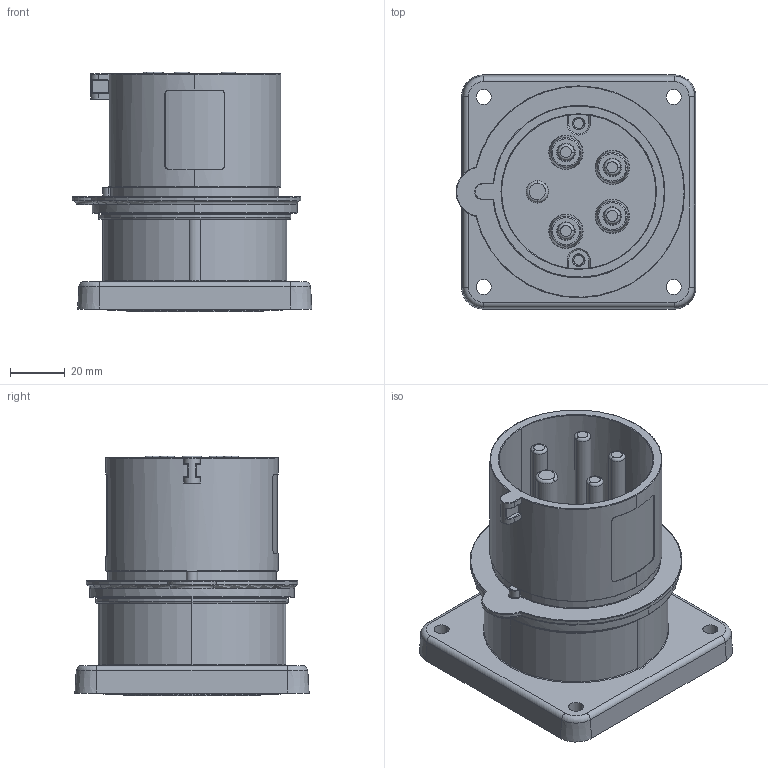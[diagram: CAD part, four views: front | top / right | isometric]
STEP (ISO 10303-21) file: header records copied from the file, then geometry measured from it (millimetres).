
FILE_DESCRIPTION (( 'STEP AP203' ), '1' );
FILE_NAME ('DIS2433297 (PSP 5p 32ﾀ 400ﾂ IP44).STEP', '2024-09-17T05:25:34', ( '' ), ( '' ), 'SwSTEP 2.0', 'SolidWorks 2022', '' );
FILE_SCHEMA (( 'CONFIG_CONTROL_DESIGN' ));
Length unit declared in the file: millimetre
Products named in the file (1): DIS2433297 (PSP 5p 32А 400В IP44)
Bounding box: 87.7 x 85.7 x 87.6 mm (x, y, z)
Volume: 222122.5 mm3; surface area: 51205.9 mm2
Topology: 1 solids, 4 shells, 268 faces, 639 edges, 404 vertices
Faces by surface type: cylinder 88, plane 76, torus 62, cone 40, bspline 2
Entity records: 9542 total; most frequent: CARTESIAN_POINT 3123, DIRECTION 1420, ORIENTED_EDGE 1278, EDGE_CURVE 639, AXIS2_PLACEMENT_3D 602, VERTEX_POINT 404, CIRCLE 335, EDGE_LOOP 303
